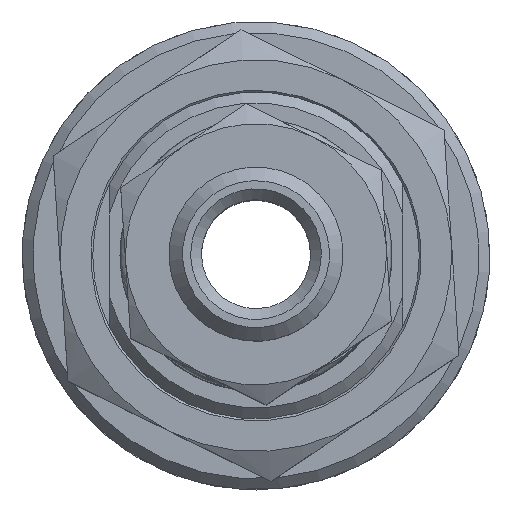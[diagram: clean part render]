
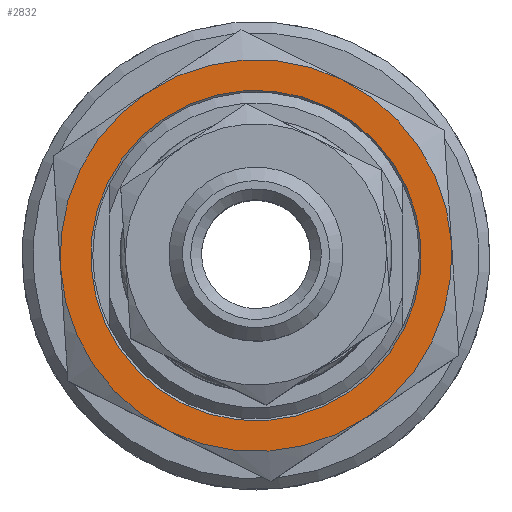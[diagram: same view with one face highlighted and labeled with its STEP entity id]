
A CAD part, top view. The second image highlights one B-rep face of the part: STEP entity #2832.
In plain terms, the highlighted planar face has unit normal (0, 0, 1).
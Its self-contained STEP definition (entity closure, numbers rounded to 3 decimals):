
#2387=CARTESIAN_POINT('',(-15.588,9.,8.0));
#2388=VERTEX_POINT('',#2387);
#2402=CARTESIAN_POINT('',(-15.588,-9.,8.0));
#2403=VERTEX_POINT('',#2402);
#2417=CARTESIAN_POINT('',(0.0,0.0,8.0));
#2418=DIRECTION('',(0.0,0.0,1.0));
#2419=DIRECTION('',(0.0,1.0,0.0));
#2420=AXIS2_PLACEMENT_3D('',#2417,#2418,#2419);
#2421=CIRCLE('',#2420,18.);
#2422=EDGE_CURVE('',#2388,#2403,#2421,.T.);
#2434=CARTESIAN_POINT('',(0.0,18.,8.0));
#2435=VERTEX_POINT('',#2434);
#2462=CARTESIAN_POINT('',(0.0,0.0,8.0));
#2463=DIRECTION('',(0.0,0.0,1.0));
#2464=DIRECTION('',(0.0,1.0,0.0));
#2465=AXIS2_PLACEMENT_3D('',#2462,#2463,#2464);
#2466=CIRCLE('',#2465,18.);
#2467=EDGE_CURVE('',#2435,#2388,#2466,.T.);
#2479=CARTESIAN_POINT('',(15.588,9.,8.0));
#2480=VERTEX_POINT('',#2479);
#2507=CARTESIAN_POINT('',(0.0,0.0,8.0));
#2508=DIRECTION('',(0.0,0.0,1.0));
#2509=DIRECTION('',(0.0,1.0,0.0));
#2510=AXIS2_PLACEMENT_3D('',#2507,#2508,#2509);
#2511=CIRCLE('',#2510,18.);
#2512=EDGE_CURVE('',#2480,#2435,#2511,.T.);
#2524=CARTESIAN_POINT('',(15.588,-9.,8.0));
#2525=VERTEX_POINT('',#2524);
#2552=CARTESIAN_POINT('',(0.0,0.0,8.0));
#2553=DIRECTION('',(0.0,0.0,1.0));
#2554=DIRECTION('',(0.0,1.0,0.0));
#2555=AXIS2_PLACEMENT_3D('',#2552,#2553,#2554);
#2556=CIRCLE('',#2555,18.);
#2557=EDGE_CURVE('',#2525,#2480,#2556,.T.);
#2582=CARTESIAN_POINT('',(0.,-18.,8.0));
#2583=VERTEX_POINT('',#2582);
#2584=CARTESIAN_POINT('',(0.0,0.0,8.0));
#2585=DIRECTION('',(0.0,0.0,1.0));
#2586=DIRECTION('',(0.0,1.0,0.0));
#2587=AXIS2_PLACEMENT_3D('',#2584,#2585,#2586);
#2588=CIRCLE('',#2587,18.);
#2589=EDGE_CURVE('',#2583,#2525,#2588,.T.);
#2627=CARTESIAN_POINT('',(0.0,0.0,8.0));
#2628=DIRECTION('',(0.0,0.0,1.0));
#2629=DIRECTION('',(0.0,1.0,0.0));
#2630=AXIS2_PLACEMENT_3D('',#2627,#2628,#2629);
#2631=CIRCLE('',#2630,18.);
#2632=EDGE_CURVE('',#2403,#2583,#2631,.T.);
#2804=CARTESIAN_POINT('',(15.188,0.,8.0));
#2805=VERTEX_POINT('',#2804);
#2806=CARTESIAN_POINT('',(0.,0.,8.0));
#2807=DIRECTION('',(0.0,0.0,1.0));
#2808=DIRECTION('',(-1.0,0.0,0.0));
#2809=AXIS2_PLACEMENT_3D('',#2806,#2807,#2808);
#2810=CIRCLE('',#2809,15.188);
#2811=EDGE_CURVE('',#2805,#2805,#2810,.T.);
#2816=CARTESIAN_POINT('',(0.,0.,8.0));
#2817=DIRECTION('',(0.0,0.0,1.0));
#2818=DIRECTION('',(1.0,0.0,0.0));
#2819=AXIS2_PLACEMENT_3D('',#2816,#2817,#2818);
#2820=PLANE('',#2819);
#2821=ORIENTED_EDGE('',*,*,#2632,.T.);
#2822=ORIENTED_EDGE('',*,*,#2589,.T.);
#2823=ORIENTED_EDGE('',*,*,#2557,.T.);
#2824=ORIENTED_EDGE('',*,*,#2512,.T.);
#2825=ORIENTED_EDGE('',*,*,#2467,.T.);
#2826=ORIENTED_EDGE('',*,*,#2422,.T.);
#2827=EDGE_LOOP('',(#2821,#2822,#2823,#2824,#2825,#2826));
#2828=FACE_OUTER_BOUND('',#2827,.T.);
#2829=ORIENTED_EDGE('',*,*,#2811,.F.);
#2830=EDGE_LOOP('',(#2829));
#2831=FACE_BOUND('',#2830,.T.);
#2832=ADVANCED_FACE('',(#2828,#2831),#2820,.T.);
